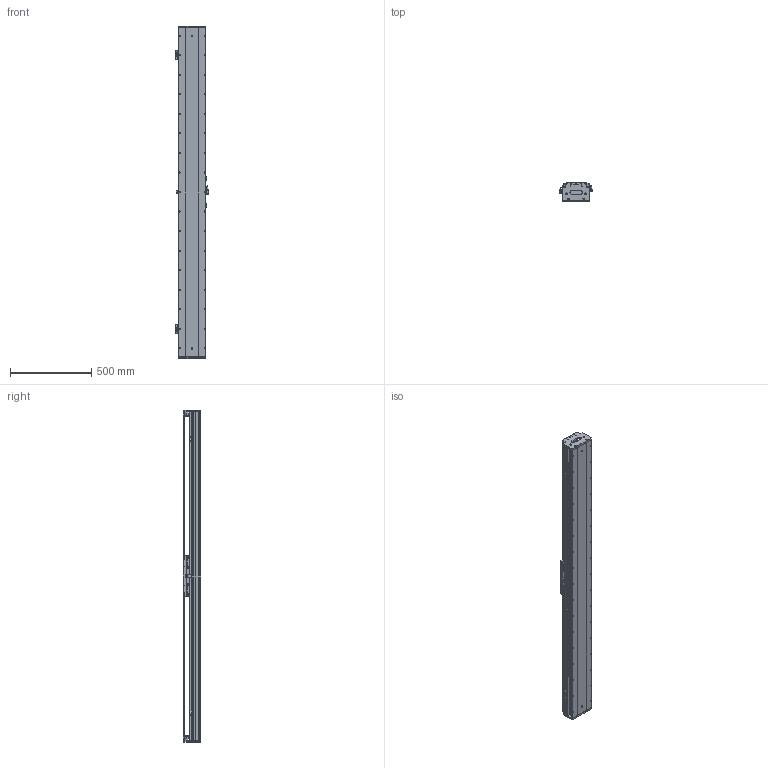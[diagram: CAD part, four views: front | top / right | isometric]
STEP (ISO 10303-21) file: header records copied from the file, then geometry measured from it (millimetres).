
FILE_DESCRIPTION (( 'STEP AP203' ), '1' );
FILE_NAME ('DKW168-C3-W090（T1680-L005-0.2）.STEP', '2021-09-10T01:28:56', ( '微软用户' ), ( '微软中国' ), 'SwSTEP 2.0', 'SolidWorks 2018', '' );
FILE_SCHEMA (( 'CONFIG_CONTROL_DESIGN' ));
Length unit declared in the file: millimetre
Products named in the file (26): 10392-0001-002-00 詩湍裔啣; MSB20S1FC; Ru2; 砎蝶猾沭; CKM03-W090-C1C2-TP-0.2 珨极萇儂; RUS嫖掑郪璃; 10392-0001-003-00 詩湍嶺輸; DKW168-HYB-00 賑輸揤啣; pm-y65; 10392-0001-004-00 詩湍揤輸; C3-W090; 10980-0001-003-00 嫖萇羲壽嘐隅釱; 10279-0001-006-00 嶺輸菜輸; 10392-0001-001-00 菁釱; 嫖萇羲壽蚾饜极; DKW168 单轴模组-拉钢带组件; MSA20絳寢; DKW-SG-GYP-H-00 嫖萇覜茼え; CKM01-W090-TRL280; 10279-0001-003-00 傷啣; 嫖萇羲壽蚾饜极A; DKW168-RU-DTJ-00 RU2黍杅芛盓殤; DKW168-HXJ-00 遣喳砎蝶; DKW168-C3-W090-HTB-04 C3-W090賑怢啣; DKW168-C3-W090（T1680-L005-0.2）; RUS嫖掑喜
Assembly tree (41 placements, depth 3):
  DKW168-C3-W090（T1680-L005-0.2）
    C3-W090
      DKW168-C3-W090-HTB-04 C3-W090賑怢啣
      MSB20S1FC  x4
      CKM03-W090-C1C2-TP-0.2 珨极萇儂
      DKW168-HYB-00 賑輸揤啣  x2
    10392-0001-001-00 菁釱
    MSA20絳寢  x2
    DKW168 单轴模组-拉钢带组件
      10279-0001-003-00 傷啣  x2
      DKW168-HXJ-00 遣喳砎蝶  x4
      10392-0001-002-00 詩湍裔啣
      砎蝶猾沭  x2
      10392-0001-003-00 詩湍嶺輸  x2
      10392-0001-004-00 詩湍揤輸  x2
      10279-0001-006-00 嶺輸菜輸  x2
    CKM01-W090-TRL280
    DKW168-RU-DTJ-00 RU2黍杅芛盓殤
    RUS嫖掑郪璃
      RUS嫖掑喜
      Ru2
    嫖萇羲壽蚾饜极
      pm-y65
      10980-0001-003-00 嫖萇羲壽嘐隅釱
    DKW-SG-GYP-H-00 嫖萇覜茼え
    嫖萇羲壽蚾饜极A
      pm-y65  x2
      10980-0001-003-00 嫖萇羲壽嘐隅釱
Bounding box: 202.1 x 109 x 2040 mm (x, y, z)
Volume: 13748094.7 mm3; surface area: 3996691.2 mm2
Topology: 48 solids, 97 shells, 4818 faces, 12613 edges, 8038 vertices
Faces by surface type: plane 2411, cylinder 1586, cone 510, bspline 279, torus 16, sphere 16
Entity records: 120763 total; most frequent: CARTESIAN_POINT 40818, ORIENTED_EDGE 16045, DIRECTION 15308, EDGE_CURVE 8063, VERTEX_POINT 5257, AXIS2_PLACEMENT_3D 5200, LINE 4908, VECTOR 4908
